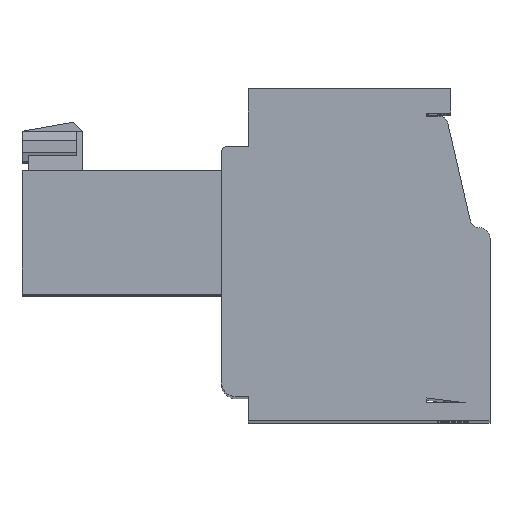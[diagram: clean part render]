
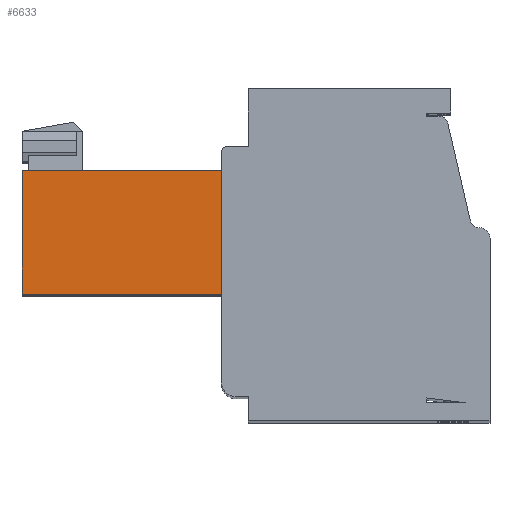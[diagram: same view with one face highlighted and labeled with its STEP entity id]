
A CAD part, top view. The second image highlights one B-rep face of the part: STEP entity #6633.
In plain terms, the highlighted planar face has unit normal (-0.015, 0, 1).
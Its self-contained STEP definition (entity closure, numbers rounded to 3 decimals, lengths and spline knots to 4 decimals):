
#3859 = VERTEX_POINT ( 'NONE', #20416 ) ;
#3914 = EDGE_CURVE ( 'NONE', #3859, #3915, #20531, .T. ) ;
#3915 = VERTEX_POINT ( 'NONE', #20527 ) ;
#6206 = EDGE_LOOP ( 'NONE', ( #8779, #9432, #8152, #7799 ) ) ;
#6633 = ADVANCED_FACE ( 'NONE', ( #26210 ), #26209, .F. ) ;
#7019 = EDGE_CURVE ( 'NONE', #48867, #3859, #27136, .T. ) ;
#7799 = ORIENTED_EDGE ( 'NONE', *, *, #7019, .F. ) ;
#8152 = ORIENTED_EDGE ( 'NONE', *, *, #3914, .F. ) ;
#8779 = ORIENTED_EDGE ( 'NONE', *, *, #48921, .T. ) ;
#9432 = ORIENTED_EDGE ( 'NONE', *, *, #9440, .T. ) ;
#9440 = EDGE_CURVE ( 'NONE', #48903, #3915, #31598, .T. ) ;
#20416 = CARTESIAN_POINT ( 'NONE',  ( -10.2426, 4.2, -0.4 ) ) ;
#20527 = CARTESIAN_POINT ( 'NONE',  ( -10.2426, 8.3, -0.4 ) ) ;
#20528 = DIRECTION ( 'NONE',  ( 0., 1., 0. ) ) ;
#20529 = VECTOR ( 'NONE', #20528, 1000. ) ;
#20530 = CARTESIAN_POINT ( 'NONE',  ( -10.2426, 4., -0.4 ) ) ;
#20531 = LINE ( 'NONE', #20530, #20529 ) ;
#26209 = PLANE ( 'NONE',  #26276 ) ;
#26210 = FACE_OUTER_BOUND ( 'NONE', #6206, .T. ) ;
#26273 = DIRECTION ( 'NONE',  ( -1., 0., -0.015 ) ) ;
#26274 = DIRECTION ( 'NONE',  ( 0.015, 0., -1. ) ) ;
#26275 = CARTESIAN_POINT ( 'NONE',  ( -3.65, 4., -0.3 ) ) ;
#26276 = AXIS2_PLACEMENT_3D ( 'NONE', #26275, #26274, #26273 ) ;
#27132 = DIRECTION ( 'NONE',  ( -1., 0., -0.015 ) ) ;
#27134 = VECTOR ( 'NONE', #27132, 1000. ) ;
#27135 = CARTESIAN_POINT ( 'NONE',  ( -3.6455, 4.2, -0.2999 ) ) ;
#27136 = LINE ( 'NONE', #27135, #27134 ) ;
#31595 = DIRECTION ( 'NONE',  ( -1., 0., -0.015 ) ) ;
#31596 = VECTOR ( 'NONE', #31595, 1000. ) ;
#31597 = CARTESIAN_POINT ( 'NONE',  ( -3.65, 8.3, -0.3 ) ) ;
#31598 = LINE ( 'NONE', #31597, #31596 ) ;
#41222 = CARTESIAN_POINT ( 'NONE',  ( -3.65, 4.2, -0.3 ) ) ;
#41281 = CARTESIAN_POINT ( 'NONE',  ( -3.65, 8.3, -0.3 ) ) ;
#41314 = DIRECTION ( 'NONE',  ( 0., 1., 0. ) ) ;
#41315 = VECTOR ( 'NONE', #41314, 1000. ) ;
#41316 = CARTESIAN_POINT ( 'NONE',  ( -3.65, 4., -0.3 ) ) ;
#41317 = LINE ( 'NONE', #41316, #41315 ) ;
#48867 = VERTEX_POINT ( 'NONE', #41222 ) ;
#48903 = VERTEX_POINT ( 'NONE', #41281 ) ;
#48921 = EDGE_CURVE ( 'NONE', #48867, #48903, #41317, .T. ) ;
